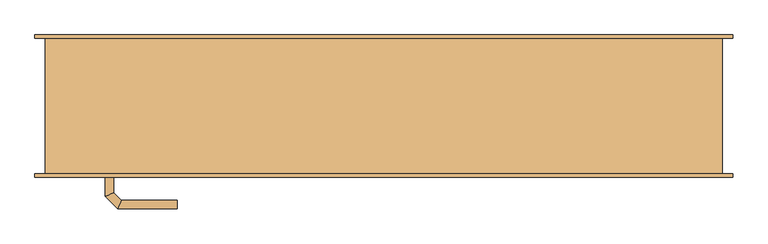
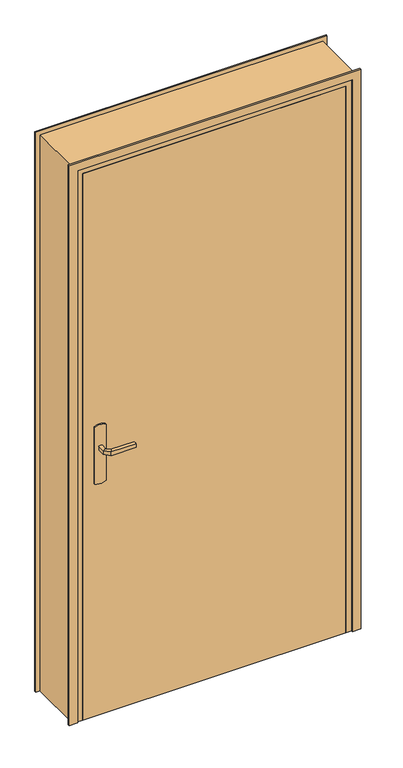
"""IFC4 building model written with IfcOpenShell, lengths in millimetres: door geometry, @_Int. Simple : @_PP (0.93m x 2.04m)."""

from ifc_helpers import new_model, si_unit, point, frame, frame_2d, origin, origin_with_axes, place, context, project, spatial, polyline, circle_curve, ellipse_curve, trimmed, segment, composite_curve, outline, extrude, faceted_brep, source, transform, mapped, element, save
from ifc_brep_helpers import plane_surface, cylinder_surface, advanced_brep


def door_2259044a(model_context):
    return source(origin(), model_context, "Body", "SolidModel", [
        extrude(outline(composite_curve([segment(trimmed(circle_curve(frame_2d((904.6410162, -440.0)), 40.0), [point((870.0, -460.0))], [point((870.0, -420.0))], False, "CARTESIAN"), True, "CONTINUOUS"), segment(polyline([(870.0, -420.0), (1080.0, -420.0)]), True, "CONTINUOUS"), segment(trimmed(circle_curve(frame_2d((1045.3589838, -440.0)), 40.0), [point((1080.0, -420.0))], [point((1080.0, -460.0))], False, "CARTESIAN"), True, "CONTINUOUS"), segment(polyline([(1080.0, -460.0), (870.0, -460.0)]), True, "CONTINUOUS")], self_intersect=False)), frame((0.0, -105.0, 0.0), z_axis=(0.0, 1.0, 0.0), x_axis=(0.0, 0.0, 1.0)), (0.0, 0.0, 1.0), 5.0),
        extrude(outline(composite_curve([segment(trimmed(circle_curve(frame_2d((1045.3589838, -440.0)), 40.0), [point((1080.0, -420.0))], [point((1080.0, -460.0))], False, "CARTESIAN"), True, "CONTINUOUS"), segment(polyline([(1080.0, -460.0), (870.0, -460.0)]), True, "CONTINUOUS"), segment(trimmed(circle_curve(frame_2d((904.6410162, -440.0)), 40.0), [point((870.0, -460.0))], [point((870.0, -420.0))], False, "CARTESIAN"), True, "CONTINUOUS"), segment(polyline([(870.0, -420.0), (1080.0, -420.0)]), True, "CONTINUOUS")], self_intersect=False)), frame((0.0, -60.0, 0.0), z_axis=(0.0, 1.0, 0.0), x_axis=(0.0, 0.0, 1.0)), (0.0, 0.0, 1.0), 5.0),
        advanced_brep(
        [(-446.0, -105.0, 1007.0), (-434.0, -105.0, 1007.0), (-434.0, -105.0, 993.0), (-446.0, -105.0, 993.0), (-446.0, -132.6509507, 1007.0), (-434.0, -127.680388, 1007.0), (-434.0, -127.680388, 993.0), (-446.0, -132.6509507, 993.0), (-427.62279, -151.0281607, 1007.0), (-422.6522273, -139.0281607, 1007.0), (-422.6522273, -139.0281607, 993.0), (-427.62279, -151.0281607, 993.0), (-339.9813594, -151.0281607, 1007.0), (-339.9813594, -151.0281607, 993.0), (-339.9813594, -139.0281607, 993.0), (-339.9813594, -139.0281607, 1007.0)],
        [
            (0, 1, circle_curve(frame((-440.0, -105.0, 986.9542278), z_axis=(0.0, 1.0, 0.0), x_axis=(1.0, 0.0, 0.0)), 20.9244589)),
            (1, 2),
            (2, 3, circle_curve(frame((-440.0, -105.0, 1013.0457722), z_axis=(0.0, 1.0, 0.0), x_axis=(1.0, 0.0, 0.0)), 20.9244589)),
            (3, 0),
            (0, 4),
            (4, 5, ellipse_curve(frame((-440.0, -130.1656693, 986.9542278), z_axis=(-0.3826834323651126, 0.9238795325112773, 0.0), x_axis=(0.9238795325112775, 0.38268343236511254, 0.0)), 22.6484711, 20.9244589)),
            (5, 1),
            (5, 6),
            (6, 2),
            (6, 7, ellipse_curve(frame((-440.0, -130.1656693, 1013.0457722), z_axis=(-0.3826834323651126, 0.9238795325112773, 0.0), x_axis=(0.9238795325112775, 0.38268343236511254, 0.0)), 22.6484711, 20.9244589)),
            (7, 3),
            (7, 4),
            (4, 8),
            (8, 9, ellipse_curve(frame((-425.1375086, -145.0281607, 986.9542278), z_axis=(-0.9238795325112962, 0.38268343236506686, 0.0), x_axis=(0.3826834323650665, 0.9238795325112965, 0.0)), 22.6484711, 20.9244589)),
            (9, 5),
            (9, 10),
            (10, 6),
            (10, 11, ellipse_curve(frame((-425.1375086, -145.0281607, 1013.0457722), z_axis=(-0.9238795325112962, 0.38268343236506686, 0.0), x_axis=(0.3826834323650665, 0.9238795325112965, 0.0)), 22.6484711, 20.9244589)),
            (11, 7),
            (11, 8),
            (12, 13),
            (13, 14, circle_curve(frame((-339.9813594, -145.0281607, 1013.0457722), z_axis=(1.0, 0.0, 0.0), x_axis=(0.0, 1.0, 0.0)), 20.9244589)),
            (14, 15),
            (15, 12, circle_curve(frame((-339.9813594, -145.0281607, 986.9542278), z_axis=(1.0, 0.0, 0.0), x_axis=(0.0, 1.0, 0.0)), 20.9244589)),
            (8, 12),
            (15, 9),
            (14, 10),
            (13, 11),
        ],
        [
            plane_surface(frame((-449.2195445, -105.0, 1000.0), z_axis=(0.0, 1.0, 0.0), x_axis=(0.0, 0.0, -1.0))),
            cylinder_surface(frame((-440.0, -105.0, 986.9542278), z_axis=(0.0, 1.0, 0.0), x_axis=(1.0, 0.0, 0.0)), 20.9244589),
            plane_surface(frame((-434.0, -105.0, 1007.0), z_axis=(1.0, 0.0, 0.0), x_axis=(0.0, -1.0, 0.0))),
            cylinder_surface(frame((-440.0, -105.0, 1013.0457722), z_axis=(0.0, 1.0, 0.0), x_axis=(1.0, 0.0, 0.0)), 20.9244589),
            plane_surface(frame((-446.0, -105.0, 993.0), z_axis=(-1.0, 0.0, 0.0), x_axis=(0.0, -1.0, 0.0))),
            cylinder_surface(frame((-440.0, -130.1656693, 986.9542278), z_axis=(-0.7071067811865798, 0.7071067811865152, 0.0), x_axis=(0.7071067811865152, 0.7071067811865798, 0.0)), 20.9244589),
            plane_surface(frame((-434.0, -127.680388, 1007.0), z_axis=(0.7071067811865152, 0.7071067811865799, 0.0), x_axis=(0.7071067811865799, -0.7071067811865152, 0.0))),
            cylinder_surface(frame((-440.0, -130.1656693, 1013.0457722), z_axis=(-0.7071067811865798, 0.7071067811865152, 0.0), x_axis=(0.7071067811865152, 0.7071067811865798, 0.0)), 20.9244589),
            plane_surface(frame((-446.0, -132.6509507, 993.0), z_axis=(-0.7071067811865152, -0.7071067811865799, 0.0), x_axis=(0.7071067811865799, -0.7071067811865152, 0.0))),
            plane_surface(frame((-339.9813594, -145.0281607, 990.7804555), z_axis=(1.0, 0.0, 0.0), x_axis=(0.0, 1.0, 0.0))),
            cylinder_surface(frame((-425.1375086, -145.0281607, 986.9542278), z_axis=(-1.0, 0.0, 0.0), x_axis=(0.0, 1.0, 0.0)), 20.9244589),
            plane_surface(frame((-422.6522273, -139.0281607, 1007.0), z_axis=(0.0, 1.0, 0.0), x_axis=(1.0, 0.0, 0.0))),
            cylinder_surface(frame((-425.1375086, -145.0281607, 1013.0457722), z_axis=(-1.0, 0.0, 0.0), x_axis=(0.0, 1.0, 0.0)), 20.9244589),
            plane_surface(frame((-427.62279, -151.0281607, 993.0), z_axis=(0.0, -1.0, 0.0), x_axis=(1.0, 0.0, 0.0))),
        ],
        [
            (0, [[1, 2, 3, 4]]),
            (1, [[-1, 5, 6, 7]]),
            (2, [[-2, -7, 8, 9]]),
            (3, [[-3, -9, 10, 11]]),
            (4, [[-4, -11, 12, -5]]),
            (5, [[-6, 13, 14, 15]]),
            (6, [[-8, -15, 16, 17]]),
            (7, [[-10, -17, 18, 19]]),
            (8, [[-12, -19, 20, -13]]),
            (9, [[21, 22, 23, 24]]),
            (10, [[-14, 25, -24, 26]]),
            (11, [[-16, -26, -23, 27]]),
            (12, [[-18, -27, -22, 28]]),
            (13, [[-20, -28, -21, -25]]),
        ],
    ),
        advanced_brep(
        [(-434.0, -55.0, 993.0), (-434.0, -55.0, 1007.0), (-446.0, -55.0, 1007.0), (-446.0, -55.0, 993.0), (-434.0, -32.5147955, 993.0), (-434.0, -32.5147955, 1007.0), (-446.0, -27.5442327, 1007.0), (-446.0, -27.5442327, 993.0), (-422.5147186, -21.0295141, 993.0), (-422.5147186, -21.0295141, 1007.0), (-427.4852814, -9.0295141, 1007.0), (-427.4852814, -9.0295141, 993.0), (-339.9542163, -21.0295141, 993.0), (-339.9542163, -9.0295141, 993.0), (-339.9542163, -9.0295141, 1007.0), (-339.9542163, -21.0295141, 1007.0)],
        [
            (0, 1),
            (1, 2, circle_curve(frame((-440.0, -55.0, 986.9542278), z_axis=(0.0, -1.0, 0.0), x_axis=(-1.0, 0.0, 0.0)), 20.9244589)),
            (2, 3),
            (3, 0, circle_curve(frame((-440.0, -55.0, 1013.0457722), z_axis=(0.0, -1.0, 0.0), x_axis=(-1.0, 0.0, 0.0)), 20.9244589)),
            (0, 4),
            (4, 5),
            (5, 1),
            (5, 6, ellipse_curve(frame((-440.0, -30.0295141, 986.9542278), z_axis=(-0.3826834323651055, -0.9238795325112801, 0.0), x_axis=(0.9238795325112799, -0.3826834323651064, 0.0)), 22.6484711, 20.9244589)),
            (6, 2),
            (6, 7),
            (7, 3),
            (7, 4, ellipse_curve(frame((-440.0, -30.0295141, 1013.0457722), z_axis=(-0.3826834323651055, -0.9238795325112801, 0.0), x_axis=(0.9238795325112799, -0.3826834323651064, 0.0)), 22.6484711, 20.9244589)),
            (4, 8),
            (8, 9),
            (9, 5),
            (9, 10, ellipse_curve(frame((-425.0, -15.0295141, 986.9542278), z_axis=(-0.9238795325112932, -0.382683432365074, 0.0), x_axis=(0.3826834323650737, -0.9238795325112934, 0.0)), 22.6484711, 20.9244589)),
            (10, 6),
            (10, 11),
            (11, 7),
            (11, 8, ellipse_curve(frame((-425.0, -15.0295141, 1013.0457722), z_axis=(-0.9238795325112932, -0.382683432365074, 0.0), x_axis=(0.3826834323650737, -0.9238795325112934, 0.0)), 22.6484711, 20.9244589)),
            (12, 13, circle_curve(frame((-339.9542163, -15.0295141, 1013.0457722), z_axis=(1.0, 0.0, 0.0), x_axis=(0.0, 1.0, 0.0)), 20.9244589)),
            (13, 14),
            (14, 15, circle_curve(frame((-339.9542163, -15.0295141, 986.9542278), z_axis=(1.0, 0.0, 0.0), x_axis=(0.0, 1.0, 0.0)), 20.9244589)),
            (15, 12),
            (8, 12),
            (15, 9),
            (14, 10),
            (13, 11),
        ],
        [
            plane_surface(frame((-449.2195445, -55.0, 1000.0), z_axis=(0.0, -1.0, 0.0), x_axis=(0.0, 0.0, 1.0))),
            plane_surface(frame((-434.0, -55.0, 993.0), z_axis=(1.0, 0.0, 0.0), x_axis=(0.0, 1.0, 0.0))),
            cylinder_surface(frame((-440.0, -55.0, 986.9542278), z_axis=(0.0, -1.0, 0.0), x_axis=(-1.0, 0.0, 0.0)), 20.9244589),
            plane_surface(frame((-446.0, -55.0, 1007.0), z_axis=(-1.0, 0.0, 0.0), x_axis=(0.0, 1.0, 0.0))),
            cylinder_surface(frame((-440.0, -55.0, 1013.0457722), z_axis=(0.0, -1.0, 0.0), x_axis=(-1.0, 0.0, 0.0)), 20.9244589),
            plane_surface(frame((-434.0, -32.5147955, 993.0), z_axis=(0.7071067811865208, -0.7071067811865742, 0.0), x_axis=(0.7071067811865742, 0.7071067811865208, 0.0))),
            cylinder_surface(frame((-440.0, -30.0295141, 986.9542278), z_axis=(-0.7071067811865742, -0.7071067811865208, 0.0), x_axis=(-0.7071067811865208, 0.7071067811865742, 0.0)), 20.9244589),
            plane_surface(frame((-446.0, -27.5442327, 1007.0), z_axis=(-0.7071067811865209, 0.7071067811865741, 0.0), x_axis=(0.7071067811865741, 0.7071067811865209, 0.0))),
            cylinder_surface(frame((-440.0, -30.0295141, 1013.0457722), z_axis=(-0.7071067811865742, -0.7071067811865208, 0.0), x_axis=(-0.7071067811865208, 0.7071067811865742, 0.0)), 20.9244589),
            plane_surface(frame((-339.9542163, -15.0295141, 990.7804555), z_axis=(1.0, 0.0, 0.0), x_axis=(0.0, 1.0, 0.0))),
            plane_surface(frame((-422.5147186, -21.0295141, 993.0), z_axis=(0.0, -1.0, 0.0), x_axis=(1.0, 0.0, 0.0))),
            cylinder_surface(frame((-425.0, -15.0295141, 986.9542278), z_axis=(-1.0, 0.0, 0.0), x_axis=(0.0, 1.0, 0.0)), 20.9244589),
            plane_surface(frame((-427.4852814, -9.0295141, 1007.0), z_axis=(0.0, 1.0, 0.0), x_axis=(1.0, 0.0, 0.0))),
            cylinder_surface(frame((-425.0, -15.0295141, 1013.0457722), z_axis=(-1.0, 0.0, 0.0), x_axis=(0.0, 1.0, 0.0)), 20.9244589),
        ],
        [
            (0, [[1, 2, 3, 4]]),
            (1, [[-1, 5, 6, 7]]),
            (2, [[-2, -7, 8, 9]]),
            (3, [[-3, -9, 10, 11]]),
            (4, [[-4, -11, 12, -5]]),
            (5, [[-6, 13, 14, 15]]),
            (6, [[-8, -15, 16, 17]]),
            (7, [[-10, -17, 18, 19]]),
            (8, [[-12, -19, 20, -13]]),
            (9, [[21, 22, 23, 24]]),
            (10, [[-14, 25, -24, 26]]),
            (11, [[-16, -26, -23, 27]]),
            (12, [[-18, -27, -22, 28]]),
            (13, [[-20, -28, -21, -25]]),
        ],
    ),
        extrude(outline(polyline([(-500.0, -60.0), (430.0, -60.0), (430.0, -100.0), (-500.0, -100.0), (-500.0, -60.0)])), origin_with_axes(), (0.0, 0.0, 1.0), 2040.0),
        faceted_brep([(-535.0, -100.0, 0.0), (-535.0, 100.0, 0.0), (-485.0, 100.0, 0.0), (-485.0, -60.0, 0.0), (-500.0, -60.0, 0.0), (-500.0, -100.0, 0.0), (-535.0, -100.0, 2075.0), (-535.0, 100.0, 2075.0), (465.0, 100.0, 2075.0), (465.0, 100.0, 0.0), (415.0, 100.0, 0.0), (415.0, 100.0, 2025.0), (-485.0, 100.0, 2025.0), (-485.0, -60.0, 2025.0), (415.0, -60.0, 2025.0), (415.0, -60.0, 0.0), (430.0, -60.0, 0.0), (430.0, -60.0, 2040.0), (-500.0, -60.0, 2040.0), (-500.0, -100.0, 2040.0), (430.0, -100.0, 2040.0), (430.0, -100.0, 0.0), (465.0, -100.0, 0.0), (465.0, -100.0, 2075.0)], [[[0, 1, 2, 3, 4, 5]], [[1, 0, 6, 7]], [[2, 1, 7, 8, 9, 10, 11, 12]], [[3, 2, 12, 13]], [[4, 3, 13, 14, 15, 16, 17, 18]], [[5, 4, 18, 19]], [[0, 5, 19, 20, 21, 22, 23, 6]], [[8, 23, 22, 9]], [[22, 21, 16, 15, 10, 9]], [[14, 11, 10, 15]], [[20, 17, 16, 21]], [[7, 6, 23, 8]], [[13, 12, 11, 14]], [[19, 18, 17, 20]]]),
        extrude(outline(polyline([(0.0, -550.0), (0.0, -520.0), (2060.0, -520.0), (2060.0, 450.0), (0.0, 450.0), (0.0, 480.0), (2090.0, 480.0), (2090.0, -550.0), (0.0, -550.0)])), frame((0.0, -105.0, 0.0), z_axis=(0.0, 1.0, 0.0), x_axis=(0.0, 0.0, 1.0)), (0.0, 0.0, 1.0), 5.0),
        extrude(outline(polyline([(0.0, -550.0), (0.0, -520.0), (2060.0, -520.0), (2060.0, 450.0), (0.0, 450.0), (0.0, 480.0), (2090.0, 480.0), (2090.0, -550.0), (0.0, -550.0)])), frame((0.0, 100.0, 0.0), z_axis=(0.0, 1.0, 0.0), x_axis=(0.0, 0.0, 1.0)), (0.0, 0.0, 1.0), 5.0),
    ])


if __name__ == "__main__":
    model = new_model("IFC4")
    model_context = context("Model", 3, world=origin())
    ifc_project = project(units=[si_unit("LENGTHUNIT", "METRE", prefix="MILLI")], contexts=[model_context])
    site = spatial("IfcSite", under=ifc_project)
    building = spatial("IfcBuilding", under=site)
    placement = place(None, origin())
    door_shape = door_2259044a(model_context)
    element("IfcDoor", 1, ObjectType="@_Int. Simple : @_PP (0.93m x 2.04m)", at=placement, inside=building, context=model_context, shape_type="MappedRepresentation", body=[
        mapped(door_shape, transform((0.0, 0.0, 0.0), x_axis=(1.0, 0.0, 0.0), y_axis=(0.0, 1.0, 0.0), z_axis=(0.0, 0.0, 1.0))),
    ])
    save(model, "model.ifc")
